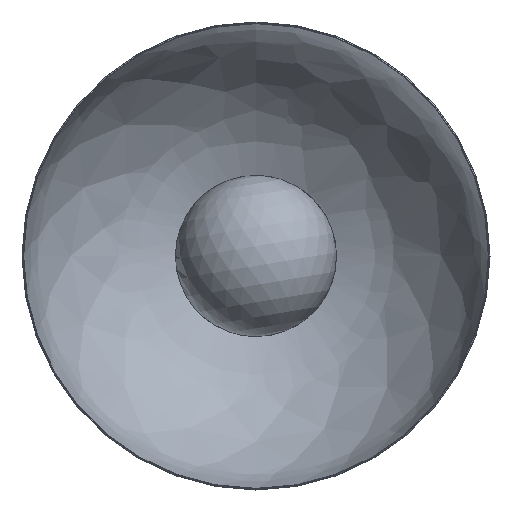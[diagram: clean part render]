
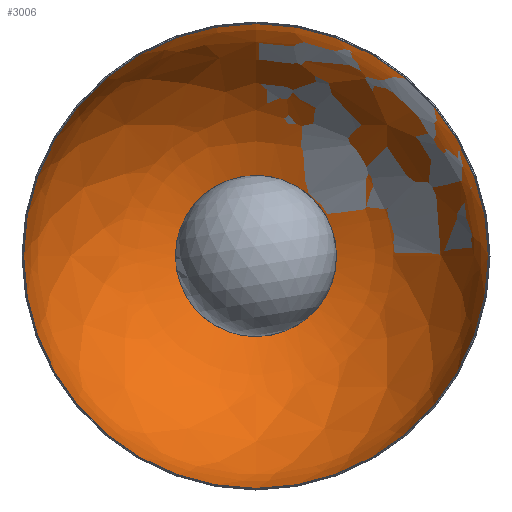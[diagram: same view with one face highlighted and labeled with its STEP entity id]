
A CAD part, front view. The second image highlights one B-rep face of the part: STEP entity #3006.
In plain terms, the highlighted free-form (B-spline) face has degree [2, 2] with [3, 9] control points.
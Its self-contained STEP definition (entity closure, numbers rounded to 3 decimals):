
#1785=(
BOUNDED_SURFACE()
B_SPLINE_SURFACE(2,2,((#5429,#5430,#5431,#5432,#5433,#5434,#5435,#5436,
#5437),(#5438,#5439,#5440,#5441,#5442,#5443,#5444,#5445,#5446),(#5447,#5448,
#5449,#5450,#5451,#5452,#5453,#5454,#5455)),.UNSPECIFIED.,.F.,.T.,.F.)
B_SPLINE_SURFACE_WITH_KNOTS((3,3),(3,2,2,2,3),(-1.274,-0.08),
(-3.142,-1.571,0.,1.571,3.142),
 .UNSPECIFIED.)
GEOMETRIC_REPRESENTATION_ITEM()
RATIONAL_B_SPLINE_SURFACE(((1.,0.707,1.,0.707,1.,
0.707,1.,0.707,1.),(0.827,0.585,
0.827,0.585,0.827,0.585,
0.827,0.585,0.827),(1.,0.707,
1.,0.707,1.,0.707,1.,0.707,1.)))
REPRESENTATION_ITEM('')
SURFACE()
);
#1813=CIRCLE('',#3401,59.985);
#1814=CIRCLE('',#3402,160.632);
#1815=CIRCLE('',#3403,173.122);
#1932=FACE_OUTER_BOUND('',#2025,.T.);
#2025=EDGE_LOOP('',(#2613,#2614,#2615,#2616));
#2267=VERTEX_POINT('',#5456);
#2268=VERTEX_POINT('',#5458);
#2404=EDGE_CURVE('',#2267,#2267,#1813,.T.);
#2405=EDGE_CURVE('',#2267,#2268,#1814,.T.);
#2406=EDGE_CURVE('',#2268,#2268,#1815,.T.);
#2613=ORIENTED_EDGE('',*,*,#2404,.F.);
#2614=ORIENTED_EDGE('',*,*,#2405,.T.);
#2615=ORIENTED_EDGE('',*,*,#2406,.T.);
#2616=ORIENTED_EDGE('',*,*,#2405,.F.);
#3006=ADVANCED_FACE('',(#1932),#1785,.T.);
#3401=AXIS2_PLACEMENT_3D('',#5457,#4068,#4069);
#3402=AXIS2_PLACEMENT_3D('',#5459,#4070,#4071);
#3403=AXIS2_PLACEMENT_3D('',#5460,#4072,#4073);
#4068=DIRECTION('center_axis',(0.,-1.,0.));
#4069=DIRECTION('ref_axis',(0.,0.,-1.));
#4070=DIRECTION('center_axis',(1.,0.,0.));
#4071=DIRECTION('ref_axis',(0.,0.,1.));
#4072=DIRECTION('center_axis',(0.,-1.,0.));
#4073=DIRECTION('ref_axis',(0.,0.,-1.));
#5429=CARTESIAN_POINT('Ctrl Pts',(0.,144.9,59.985));
#5430=CARTESIAN_POINT('Ctrl Pts',(-59.985,144.9,59.985));
#5431=CARTESIAN_POINT('Ctrl Pts',(-59.985,144.9,0.));
#5432=CARTESIAN_POINT('Ctrl Pts',(-59.985,144.9,-59.985));
#5433=CARTESIAN_POINT('Ctrl Pts',(0.,144.9,-59.985));
#5434=CARTESIAN_POINT('Ctrl Pts',(59.985,144.9,-59.985));
#5435=CARTESIAN_POINT('Ctrl Pts',(59.985,144.9,0.));
#5436=CARTESIAN_POINT('Ctrl Pts',(59.985,144.9,59.985));
#5437=CARTESIAN_POINT('Ctrl Pts',(0.,144.9,59.985));
#5438=CARTESIAN_POINT('Ctrl Pts',(0.,112.966,
164.396));
#5439=CARTESIAN_POINT('Ctrl Pts',(-164.396,112.966,164.396));
#5440=CARTESIAN_POINT('Ctrl Pts',(-164.396,112.966,0.));
#5441=CARTESIAN_POINT('Ctrl Pts',(-164.396,112.966,-164.396));
#5442=CARTESIAN_POINT('Ctrl Pts',(0.,112.966,
-164.396));
#5443=CARTESIAN_POINT('Ctrl Pts',(164.396,112.966,-164.396));
#5444=CARTESIAN_POINT('Ctrl Pts',(164.396,112.966,0.));
#5445=CARTESIAN_POINT('Ctrl Pts',(164.396,112.966,164.396));
#5446=CARTESIAN_POINT('Ctrl Pts',(0.,112.966,
164.396));
#5447=CARTESIAN_POINT('Ctrl Pts',(0.,4.13,
173.122));
#5448=CARTESIAN_POINT('Ctrl Pts',(-173.122,4.13,173.122));
#5449=CARTESIAN_POINT('Ctrl Pts',(-173.122,4.13,0.));
#5450=CARTESIAN_POINT('Ctrl Pts',(-173.122,4.13,-173.122));
#5451=CARTESIAN_POINT('Ctrl Pts',(0.,4.13,
-173.122));
#5452=CARTESIAN_POINT('Ctrl Pts',(173.122,4.13,-173.122));
#5453=CARTESIAN_POINT('Ctrl Pts',(173.122,4.13,0.));
#5454=CARTESIAN_POINT('Ctrl Pts',(173.122,4.13,173.122));
#5455=CARTESIAN_POINT('Ctrl Pts',(0.,4.13,
173.122));
#5456=CARTESIAN_POINT('',(0.,144.9,59.985));
#5457=CARTESIAN_POINT('Origin',(0.,144.9,0.));
#5458=CARTESIAN_POINT('',(0.,4.13,173.122));
#5459=CARTESIAN_POINT('Origin',(0.,-8.708,
13.004));
#5460=CARTESIAN_POINT('Origin',(0.,4.13,0.));
